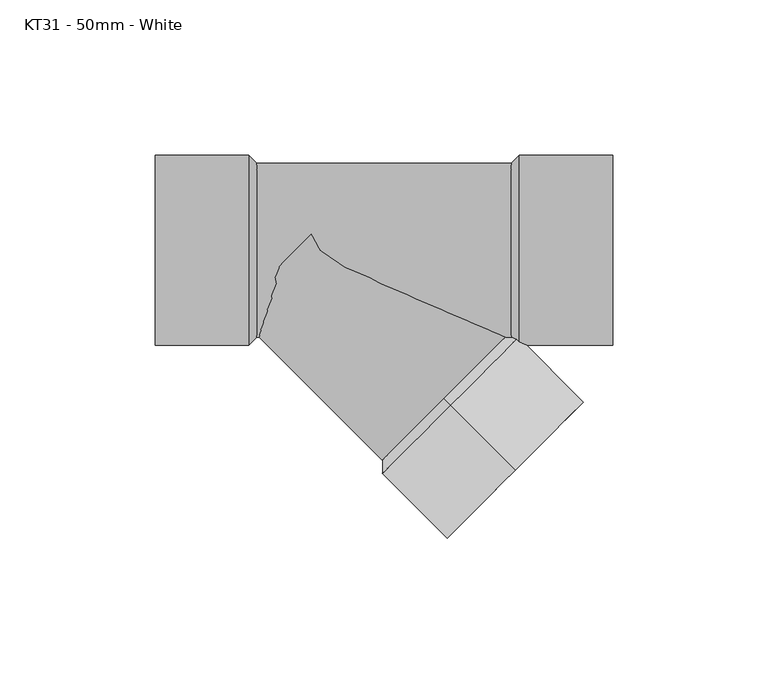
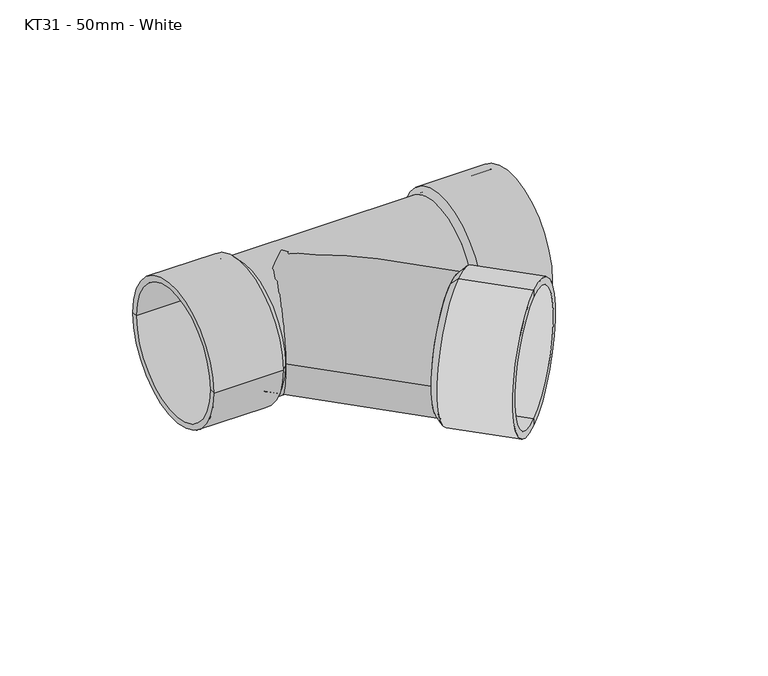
"""IFC4 building model written with IfcOpenShell, lengths in millimetres: pipe fitting geometry, MarleyPlumbingAndDrainage_PipeFitting_EqualBranchTee45 : KT31 - 50mm - White."""

from ifc_helpers import new_model, si_unit, frame, origin, place, context, project, spatial, polyline, circle_curve, ellipse_curve, source, transform, mapped, element, save
from ifc_brep_helpers import plane_surface, cylinder_surface, revolved_surface, advanced_brep


def kt31_50mm_white_7048cb69(model_context):
    return source(origin(), model_context, "Body", "AdvancedBrep", [
        advanced_brep(
        [(70.7106781, -70.7106781, -28.0), (70.7106781, -70.7106781, 28.0), (70.7106781, -70.7106781, 31.0), (70.7106781, -70.7106781, -31.0), (49.8510281, -49.8510281, -28.0), (49.8510281, -49.8510281, 28.0), (49.8510281, -49.8510281, 0.0), (47.7297077, -47.7297077, -28.0), (47.7297077, -47.7297077, 28.0), (47.7297077, -47.7297077, 0.0), (49.8510281, -49.8510281, -31.0), (49.8510281, -49.8510281, 31.0)],
        [
            (0, 1, circle_curve(frame((70.7106781, -70.7106781, 0.0), z_axis=(-0.7071067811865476, 0.7071067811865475, 0.0), x_axis=(0.0, 0.0, 1.0)), 28.0)),
            (1, 2),
            (2, 3, circle_curve(frame((70.7106781, -70.7106781, 0.0), z_axis=(0.7071067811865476, -0.7071067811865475, 0.0), x_axis=(0.0, 0.0, 1.0)), 31.0)),
            (3, 0),
            (1, 0, circle_curve(frame((70.7106781, -70.7106781, 0.0), z_axis=(-0.7071067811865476, 0.7071067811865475, 0.0), x_axis=(0.0, 0.0, 1.0)), 28.0)),
            (3, 2, circle_curve(frame((70.7106781, -70.7106781, 0.0), z_axis=(0.7071067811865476, -0.7071067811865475, 0.0), x_axis=(0.0, 0.0, 1.0)), 31.0)),
            (4, 5, circle_curve(frame((49.8510281, -49.8510281, 0.0), z_axis=(-0.7071067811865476, 0.7071067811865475, 0.0), x_axis=(0.0, 0.0, 1.0)), 28.0)),
            (5, 1),
            (0, 4),
            (5, 4, circle_curve(frame((49.8510281, -49.8510281, 0.0), z_axis=(-0.7071067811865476, 0.7071067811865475, 0.0), x_axis=(0.0, 0.0, 1.0)), 28.0)),
            (6, 5),
            (4, 6),
            (7, 8, circle_curve(frame((47.7297077, -47.7297077, 0.0), z_axis=(-0.7071067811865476, 0.7071067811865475, 0.0), x_axis=(0.0, 0.0, 1.0)), 28.0)),
            (8, 9),
            (9, 7),
            (8, 7, circle_curve(frame((47.7297077, -47.7297077, 0.0), z_axis=(-0.7071067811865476, 0.7071067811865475, 0.0), x_axis=(0.0, 0.0, 1.0)), 28.0)),
            (10, 11, circle_curve(frame((49.8510281, -49.8510281, 0.0), z_axis=(-0.7071067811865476, 0.7071067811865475, 0.0), x_axis=(0.0, 0.0, 1.0)), 31.0)),
            (11, 8),
            (7, 10),
            (11, 10, circle_curve(frame((49.8510281, -49.8510281, 0.0), z_axis=(-0.7071067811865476, 0.7071067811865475, 0.0), x_axis=(0.0, 0.0, 1.0)), 31.0)),
            (2, 11),
            (10, 3),
        ],
        [
            plane_surface(frame((70.7106781, -70.7106781, 0.0), z_axis=(0.7071067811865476, -0.7071067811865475, 0.0), x_axis=(0.0, 0.0, 1.0))),
            revolved_surface(polyline([(70.7106781, -70.7106781, 28.0), (49.85102809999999, -49.8510281, 28.0)]), (97.5687433, -97.5687433, 0.0), (0.7071067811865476, -0.7071067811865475, 0.0)),
            plane_surface(frame((49.8510281, -49.8510281, 0.0), z_axis=(0.7071067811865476, -0.7071067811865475, 0.0), x_axis=(0.0, 0.0, 1.0))),
            plane_surface(frame((47.7297077, -47.7297077, 0.0), z_axis=(-0.7071067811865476, 0.7071067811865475, 0.0), x_axis=(0.0, 0.0, 1.0))),
            revolved_surface(polyline([(47.7297077, -47.7297077, 28.0), (49.8510281, -49.8510281, 31.0)]), (97.5687433, -97.5687433, 0.0), (0.7071067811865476, -0.7071067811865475, 0.0)),
            cylinder_surface(frame((97.5687433, -97.5687433, 0.0), z_axis=(0.7071067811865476, -0.7071067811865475, 0.0), x_axis=(0.0, 0.0, 1.0)), 31.0),
        ],
        [
            (0, [[1, 2, 3, 4]]),
            (0, [[5, -4, 6, -2]]),
            (1, [[7, 8, -1, 9]]),
            (1, [[10, -9, -5, -8]]),
            (2, [[11, -7, 12]]),
            (2, [[-12, -10, -11]]),
            (3, [[13, 14, 15]]),
            (3, [[16, -15, -14]]),
            (4, [[17, 18, -13, 19]]),
            (4, [[20, -19, -16, -18]]),
            (5, [[-3, 21, -17, 22]]),
            (5, [[-6, -22, -20, -21]]),
        ],
    ),
        advanced_brep(
        [(-15.0, -24.5979797, 0.0), (-15.0, -15.0, 0.0), (-15.0, -15.0, -18.2756669), (-15.0, -15.0, 18.2756669), (19.7989899, 19.7989899, 0.0), (27.9307179, -67.5286976, 0.0), (67.5286976, -27.9307179, 0.0)],
        [
            (0, 1),
            (1, 2),
            (2, 0, ellipse_curve(frame((-15.0, 15.0, 0.0), z_axis=(-1.0, 0.0, 0.0), x_axis=(0.0, 1.0, 0.0)), 39.5979797, 28.0)),
            (0, 3, ellipse_curve(frame((-15.0, 15.0, 0.0), z_axis=(-1.0, 0.0, 0.0), x_axis=(0.0, 1.0, 0.0)), 39.5979797, 28.0)),
            (3, 1),
            (3, 4, circle_curve(frame((0.0, 0.0, 0.0), z_axis=(-0.7071067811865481, 0.7071067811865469, 0.0), x_axis=(0.7071067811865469, 0.7071067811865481, 0.0)), 28.0)),
            (4, 2, circle_curve(frame((0.0, 0.0, 0.0), z_axis=(-0.7071067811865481, 0.7071067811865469, 0.0), x_axis=(0.7071067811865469, 0.7071067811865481, 0.0)), 28.0)),
            (5, 6, circle_curve(frame((47.7297077, -47.7297077, 0.0), z_axis=(0.7071067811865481, -0.7071067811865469, 0.0), x_axis=(0.7071067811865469, 0.7071067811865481, 0.0)), 28.0)),
            (6, 5, circle_curve(frame((47.7297077, -47.7297077, 0.0), z_axis=(0.7071067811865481, -0.7071067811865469, 0.0), x_axis=(0.7071067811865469, 0.7071067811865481, 0.0)), 28.0)),
            (6, 4),
            (0, 5),
        ],
        [
            plane_surface(frame((-15.0, 0.0, 0.0), z_axis=(-1.0, 0.0, 0.0), x_axis=(0.0, 1.0, 0.0))),
            plane_surface(frame((0.0, 0.0, 0.0), z_axis=(-0.7071067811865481, 0.7071067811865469, 0.0), x_axis=(0.0, 0.0, 1.0))),
            plane_surface(frame((47.7297077, -47.7297077, 0.0), z_axis=(0.7071067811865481, -0.7071067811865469, 0.0), x_axis=(0.0, 0.0, 1.0))),
            cylinder_surface(frame((0.0, 0.0, 0.0), z_axis=(-0.7071067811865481, 0.7071067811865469, 0.0), x_axis=(0.7071067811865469, 0.7071067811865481, 0.0)), 28.0),
        ],
        [
            (0, [[1, 2, 3]]),
            (0, [[-1, 4, 5]]),
            (1, [[6, 7, -2, -5]]),
            (2, [[8, 9]]),
            (3, [[-9, 10, -6, -4, 11]]),
            (3, [[-8, -11, -3, -7, -10]]),
        ],
    ),
        advanced_brep(
        [(-45.0, -30.5, 0.0), (-45.0, 30.5, 0.0), (-15.0, 30.5, 0.0), (-15.0, -30.5, 0.0), (-45.0, -28.0, 0.0), (-45.0, 28.0, 0.0), (-15.0, -28.0, 0.0), (-15.0, 28.0, 0.0), (-15.0, 0.0, 0.0), (-12.5, 28.0, 0.0), (-12.5, -28.0, 0.0), (72.0, -28.0, 0.0), (72.0, 28.0, 0.0), (72.0, 0.0, 0.0), (102.0, -28.0, 0.0), (102.0, 28.0, 0.0), (102.0, -30.5, 0.0), (102.0, 30.5, 0.0), (72.0, -30.5, 0.0), (72.0, 30.5, 0.0), (69.5, -28.0, 0.0), (69.5, 28.0, 0.0)],
        [
            (0, 1, circle_curve(frame((-45.0, 0.0, 0.0), z_axis=(1.0, 0.0, 0.0), x_axis=(0.0, 1.0, 0.0)), 30.5)),
            (1, 2),
            (2, 3, circle_curve(frame((-15.0, 0.0, 0.0), z_axis=(-1.0, 0.0, 0.0), x_axis=(0.0, 1.0, 0.0)), 30.5)),
            (3, 0),
            (1, 0, circle_curve(frame((-45.0, 0.0, 0.0), z_axis=(1.0, 0.0, 0.0), x_axis=(0.0, 1.0, 0.0)), 30.5)),
            (3, 2, circle_curve(frame((-15.0, 0.0, 0.0), z_axis=(-1.0, 0.0, 0.0), x_axis=(0.0, 1.0, 0.0)), 30.5)),
            (4, 5, circle_curve(frame((-45.0, 0.0, 0.0), z_axis=(1.0, 0.0, 0.0), x_axis=(0.0, 1.0, 0.0)), 28.0)),
            (5, 1),
            (0, 4),
            (5, 4, circle_curve(frame((-45.0, 0.0, 0.0), z_axis=(1.0, 0.0, 0.0), x_axis=(0.0, 1.0, 0.0)), 28.0)),
            (6, 7, circle_curve(frame((-15.0, 0.0, 0.0), z_axis=(1.0, 0.0, 0.0), x_axis=(0.0, 1.0, 0.0)), 28.0)),
            (7, 5),
            (4, 6),
            (7, 6, circle_curve(frame((-15.0, 0.0, 0.0), z_axis=(1.0, 0.0, 0.0), x_axis=(0.0, 1.0, 0.0)), 28.0)),
            (8, 7),
            (6, 8),
            (2, 9),
            (9, 10, circle_curve(frame((-12.5, 0.0, 0.0), z_axis=(-1.0, 0.0, 0.0), x_axis=(0.0, 1.0, 0.0)), 28.0)),
            (10, 3),
            (10, 9, circle_curve(frame((-12.5, 0.0, 0.0), z_axis=(-1.0, 0.0, 0.0), x_axis=(0.0, 1.0, 0.0)), 28.0)),
            (11, 12, circle_curve(frame((72.0, 0.0, 0.0), z_axis=(1.0, 0.0, 0.0), x_axis=(0.0, 1.0, 0.0)), 28.0)),
            (12, 13),
            (13, 11),
            (12, 11, circle_curve(frame((72.0, 0.0, 0.0), z_axis=(1.0, 0.0, 0.0), x_axis=(0.0, 1.0, 0.0)), 28.0)),
            (14, 15, circle_curve(frame((102.0, 0.0, 0.0), z_axis=(1.0, 0.0, 0.0), x_axis=(0.0, 1.0, 0.0)), 28.0)),
            (15, 12),
            (11, 14),
            (15, 14, circle_curve(frame((102.0, 0.0, 0.0), z_axis=(1.0, 0.0, 0.0), x_axis=(0.0, 1.0, 0.0)), 28.0)),
            (16, 17, circle_curve(frame((102.0, 0.0, 0.0), z_axis=(1.0, 0.0, 0.0), x_axis=(0.0, 1.0, 0.0)), 30.5)),
            (17, 15),
            (14, 16),
            (17, 16, circle_curve(frame((102.0, 0.0, 0.0), z_axis=(1.0, 0.0, 0.0), x_axis=(0.0, 1.0, 0.0)), 30.5)),
            (18, 19, circle_curve(frame((72.0, 0.0, 0.0), z_axis=(1.0, 0.0, 0.0), x_axis=(0.0, 1.0, 0.0)), 30.5)),
            (19, 17),
            (16, 18),
            (19, 18, circle_curve(frame((72.0, 0.0, 0.0), z_axis=(1.0, 0.0, 0.0), x_axis=(0.0, 1.0, 0.0)), 30.5)),
            (20, 21, circle_curve(frame((69.5, 0.0, 0.0), z_axis=(1.0, 0.0, 0.0), x_axis=(0.0, 1.0, 0.0)), 28.0)),
            (21, 19),
            (18, 20),
            (21, 20, circle_curve(frame((69.5, 0.0, 0.0), z_axis=(1.0, 0.0, 0.0), x_axis=(0.0, 1.0, 0.0)), 28.0)),
            (9, 21),
            (20, 10),
        ],
        [
            cylinder_surface(frame((2057.0, 0.0, 0.0), z_axis=(-1.0, 0.0, 0.0), x_axis=(0.0, 1.0, 0.0)), 30.5),
            plane_surface(frame((-45.0, 0.0, 0.0), z_axis=(-1.0, 0.0, 0.0), x_axis=(0.0, 1.0, 0.0))),
            revolved_surface(polyline([(-45.0, 28.0, 0.0), (-15.0, 28.0, 0.0)]), (2057.0, 0.0, 0.0), (-1.0, 0.0, 0.0)),
            plane_surface(frame((-15.0, 0.0, 0.0), z_axis=(-1.0, 0.0, 0.0), x_axis=(0.0, 1.0, 0.0))),
            revolved_surface(polyline([(-12.5, 28.0, 0.0), (-15.0, 30.5, 0.0)]), (2057.0, 0.0, 0.0), (-1.0, 0.0, 0.0)),
            plane_surface(frame((72.0, 0.0, 0.0), z_axis=(1.0, 0.0, 0.0), x_axis=(0.0, 1.0, 0.0))),
            revolved_surface(polyline([(72.0, 28.0, 0.0), (102.0, 28.0, 0.0)]), (2057.0, 0.0, 0.0), (-1.0, 0.0, 0.0)),
            plane_surface(frame((102.0, 0.0, 0.0), z_axis=(1.0, 0.0, 0.0), x_axis=(0.0, 1.0, 0.0))),
            revolved_surface(polyline([(72.0, 30.5, 0.0), (69.5, 28.0, 0.0)]), (2057.0, 0.0, 0.0), (-1.0, 0.0, 0.0)),
            cylinder_surface(frame((2057.0, 0.0, 0.0), z_axis=(-1.0, 0.0, 0.0), x_axis=(0.0, 1.0, 0.0)), 28.0),
        ],
        [
            (0, [[1, 2, 3, 4]]),
            (0, [[5, -4, 6, -2]]),
            (1, [[7, 8, -1, 9]]),
            (1, [[10, -9, -5, -8]]),
            (2, [[11, 12, -7, 13]]),
            (2, [[14, -13, -10, -12]]),
            (3, [[15, -11, 16]]),
            (3, [[-16, -14, -15]]),
            (4, [[-3, 17, 18, 19]]),
            (4, [[-6, -19, 20, -17]]),
            (5, [[21, 22, 23]]),
            (5, [[24, -23, -22]]),
            (6, [[25, 26, -21, 27]]),
            (6, [[28, -27, -24, -26]]),
            (7, [[29, 30, -25, 31]]),
            (7, [[32, -31, -28, -30]]),
            (0, [[33, 34, -29, 35]]),
            (0, [[36, -35, -32, -34]]),
            (8, [[37, 38, -33, 39]]),
            (8, [[40, -39, -36, -38]]),
            (9, [[-18, 41, -37, 42]]),
            (9, [[-20, -42, -40, -41]]),
        ],
    ),
    ])


if __name__ == "__main__":
    model = new_model("IFC4")
    model_context = context("Model", 3, world=origin())
    ifc_project = project(units=[si_unit("LENGTHUNIT", "METRE", prefix="MILLI")], contexts=[model_context])
    site = spatial("IfcSite", under=ifc_project)
    building = spatial("IfcBuilding", under=site)
    placement = place(None, origin())
    kt31_50mm_white_shape = kt31_50mm_white_7048cb69(model_context)
    element("IfcPipeFitting", 1, ObjectType="MarleyPlumbingAndDrainage_PipeFitting_EqualBranchTee45 : KT31 - 50mm - White", at=placement, inside=building, context=model_context, shape_type="MappedRepresentation", body=[
        mapped(kt31_50mm_white_shape, transform((0.0, 0.0, 0.0), x_axis=(1.0, 0.0, 0.0), y_axis=(0.0, 1.0, 0.0), z_axis=(0.0, 0.0, 1.0))),
    ])
    save(model, "model.ifc")
